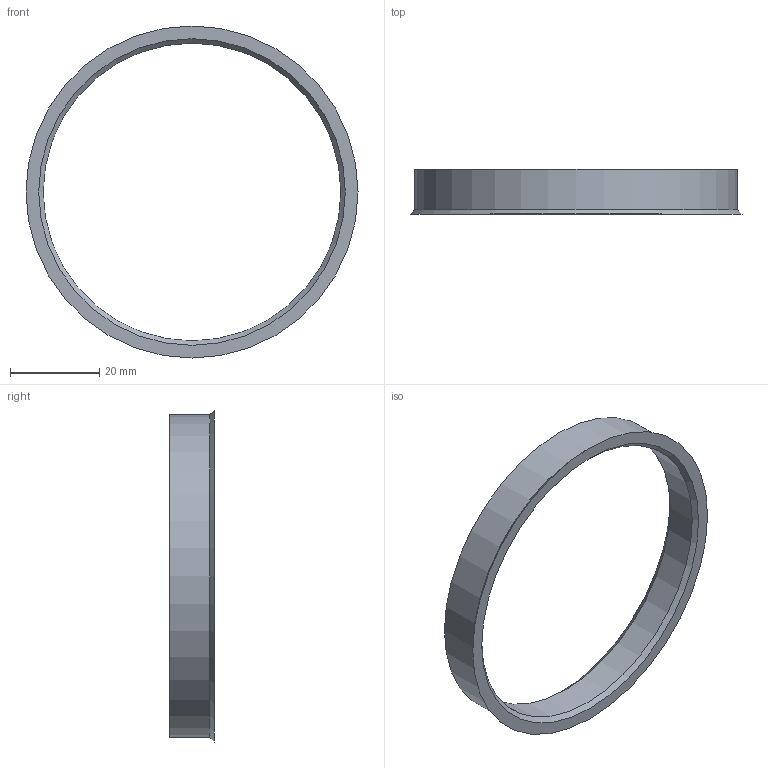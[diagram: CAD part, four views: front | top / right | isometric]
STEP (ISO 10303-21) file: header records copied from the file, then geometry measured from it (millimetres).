
FILE_DESCRIPTION(/* description */ (''),/* implementation_level */ '2;1');
FILE_NAME(/* name */ 'G:\CAD Library\Team Tasks\DIPP\11th Intake\Bradley Coles\Design Drafting\Random\Hub Rings\ipt\HubRing_72.6-66.9.stp',/* time_stamp */ '2025-07-22T13:44:53+08:00',/* author */ ('BCOLES'),/* organization */ (''),/* preprocessor_version */ 'ST-DEVELOPER v18.1',/* originating_system */ 'Autodesk Inventor 2022',/* authorisation */ '');
FILE_SCHEMA (('AUTOMOTIVE_DESIGN { 1 0 10303 214 3 1 1 }'));
Length unit declared in the file: millimetre
Products named in the file (1): HubRing_72.6-66.9
Bounding box: 74.6 x 10 x 74.6 mm (x, y, z)
Volume: 5825.3 mm3; surface area: 5598.8 mm2
Topology: 1 solids, 1 shells, 7 faces, 13 edges, 8 vertices
Faces by surface type: cone 3, cylinder 2, plane 2
Full cylindrical faces by diameter (mm): 66.9 x1, 72.6 x1
Entity records: 226 total; most frequent: DIRECTION 37, CARTESIAN_POINT 29, ORIENTED_EDGE 26, AXIS2_PLACEMENT_3D 16, EDGE_CURVE 13, EDGE_LOOP 9, CIRCLE 8, VERTEX_POINT 8
